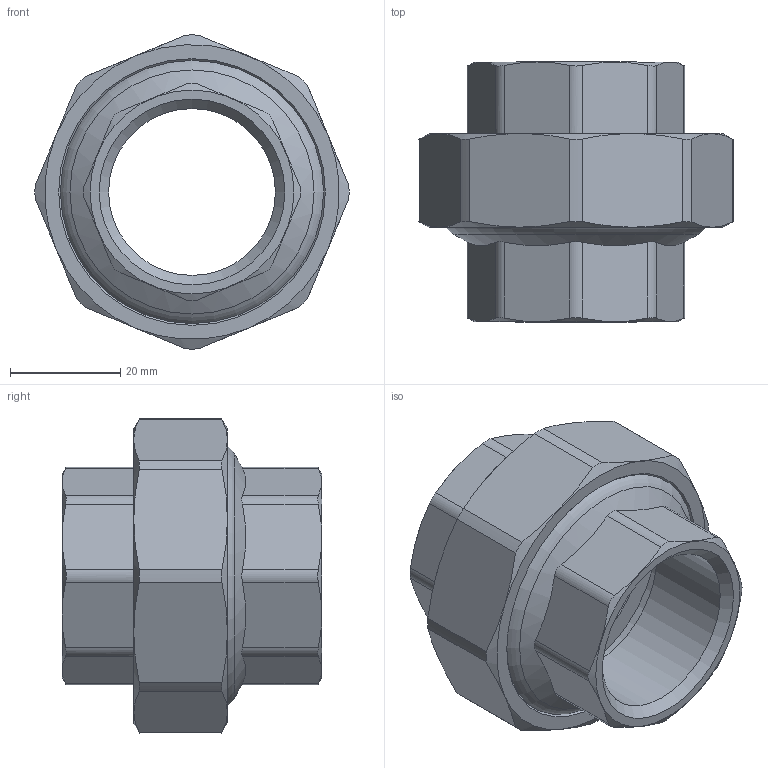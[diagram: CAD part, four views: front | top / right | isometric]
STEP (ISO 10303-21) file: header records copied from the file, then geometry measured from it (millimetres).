
FILE_DESCRIPTION(('STEP AP203'), '1');
FILE_NAME('覆.302612.009.000 捘 - VTr.340.N.0006', '2024-06-28T06:33:47', ('Boss'), (''), 'C3D Converter', 'C3D Toolkit', '');
FILE_SCHEMA(('CONFIG_CONTROL_DESIGN'));
Length unit declared in the file: millimetre
Products named in the file (1): ВР.302612.009.000 СБ
Bounding box: 56.99 x 47.14 x 56.99 mm (x, y, z)
Volume: 37798.7 mm3; surface area: 18768.1 mm2
Topology: 1 solids, 3 shells, 212 faces, 562 edges, 369 vertices
Faces by surface type: plane 83, extrusion 71, cylinder 31, cone 24, torus 3
Full cylindrical faces by diameter (mm): 30.292 x2, 39 x1, 39.7 x1, 42.1 x1, 44.5 x1, 45 x1
Entity records: 8989 total; most frequent: CARTESIAN_POINT 4141, ORIENTED_EDGE 1084, DIRECTION 746, EDGE_CURVE 542, VERTEX_POINT 368, VECTOR 318, B_SPLINE_CURVE_WITH_KNOTS 294, EDGE_LOOP 250
